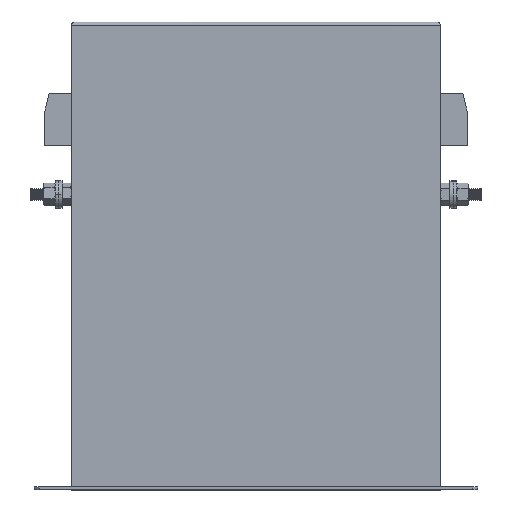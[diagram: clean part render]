
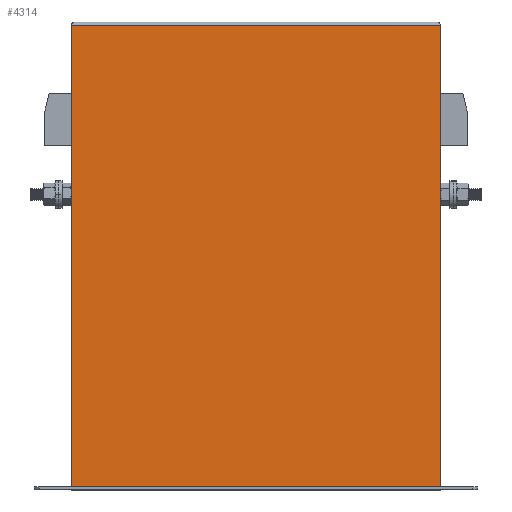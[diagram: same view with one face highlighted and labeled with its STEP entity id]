
A CAD part, top view. The second image highlights one B-rep face of the part: STEP entity #4314.
In plain terms, the highlighted planar face has unit normal (0, 0, 1).
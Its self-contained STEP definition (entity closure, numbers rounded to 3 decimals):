
#638 = CARTESIAN_POINT ( 'NONE',  ( 165., 188.5, 1.2 ) ) ;
#852 = LINE ( 'NONE', #7453, #7384 ) ;
#895 = VERTEX_POINT ( 'NONE', #638 ) ;
#1098 = CARTESIAN_POINT ( 'NONE',  ( 15., 190., 1.2 ) ) ;
#1241 = ORIENTED_EDGE ( 'NONE', *, *, #7518, .T. ) ;
#1427 = LINE ( 'NONE', #2016, #4753 ) ;
#1615 = CARTESIAN_POINT ( 'NONE',  ( 165., 1.2, 1.2 ) ) ;
#1645 = DIRECTION ( 'NONE',  ( -1., 0., 0. ) ) ;
#1681 = PLANE ( 'NONE',  #4802 ) ;
#2016 = CARTESIAN_POINT ( 'NONE',  ( 15., 1.2, 1.2 ) ) ;
#2055 = EDGE_CURVE ( 'NONE', #3026, #4089, #4725, .T. ) ;
#2629 = DIRECTION ( 'NONE',  ( 1., 0., 0. ) ) ;
#2943 = ORIENTED_EDGE ( 'NONE', *, *, #2055, .T. ) ;
#3026 = VERTEX_POINT ( 'NONE', #4861 ) ;
#3174 = VECTOR ( 'NONE', #7933, 1000. ) ;
#3222 = VERTEX_POINT ( 'NONE', #1615 ) ;
#3281 = CARTESIAN_POINT ( 'NONE',  ( 15., 188.5, 1.2 ) ) ;
#3404 = ORIENTED_EDGE ( 'NONE', *, *, #4581, .F. ) ;
#3492 = VECTOR ( 'NONE', #7622, 1000. ) ;
#4010 = ORIENTED_EDGE ( 'NONE', *, *, #7478, .T. ) ;
#4089 = VERTEX_POINT ( 'NONE', #4514 ) ;
#4314 = ADVANCED_FACE ( 'NONE', ( #6900 ), #1681, .F. ) ;
#4514 = CARTESIAN_POINT ( 'NONE',  ( 15., 1.2, 1.2 ) ) ;
#4581 = EDGE_CURVE ( 'NONE', #895, #3222, #852, .T. ) ;
#4725 = LINE ( 'NONE', #1098, #3174 ) ;
#4753 = VECTOR ( 'NONE', #2629, 1000. ) ;
#4802 = AXIS2_PLACEMENT_3D ( 'NONE', #6672, #4808, #1645 ) ;
#4808 = DIRECTION ( 'NONE',  ( 0., 0., -1. ) ) ;
#4861 = CARTESIAN_POINT ( 'NONE',  ( 15., 188.5, 1.2 ) ) ;
#5606 = DIRECTION ( 'NONE',  ( 0., -1., 0. ) ) ;
#6672 = CARTESIAN_POINT ( 'NONE',  ( 15., 190., 1.2 ) ) ;
#6900 = FACE_OUTER_BOUND ( 'NONE', #7727, .T. ) ;
#7384 = VECTOR ( 'NONE', #5606, 1000. ) ;
#7453 = CARTESIAN_POINT ( 'NONE',  ( 165., 190., 1.2 ) ) ;
#7478 = EDGE_CURVE ( 'NONE', #4089, #3222, #1427, .T. ) ;
#7518 = EDGE_CURVE ( 'NONE', #895, #3026, #8065, .T. ) ;
#7622 = DIRECTION ( 'NONE',  ( -1., 0., 0. ) ) ;
#7727 = EDGE_LOOP ( 'NONE', ( #3404, #1241, #2943, #4010 ) ) ;
#7933 = DIRECTION ( 'NONE',  ( 0., -1., 0. ) ) ;
#8065 = LINE ( 'NONE', #3281, #3492 ) ;
